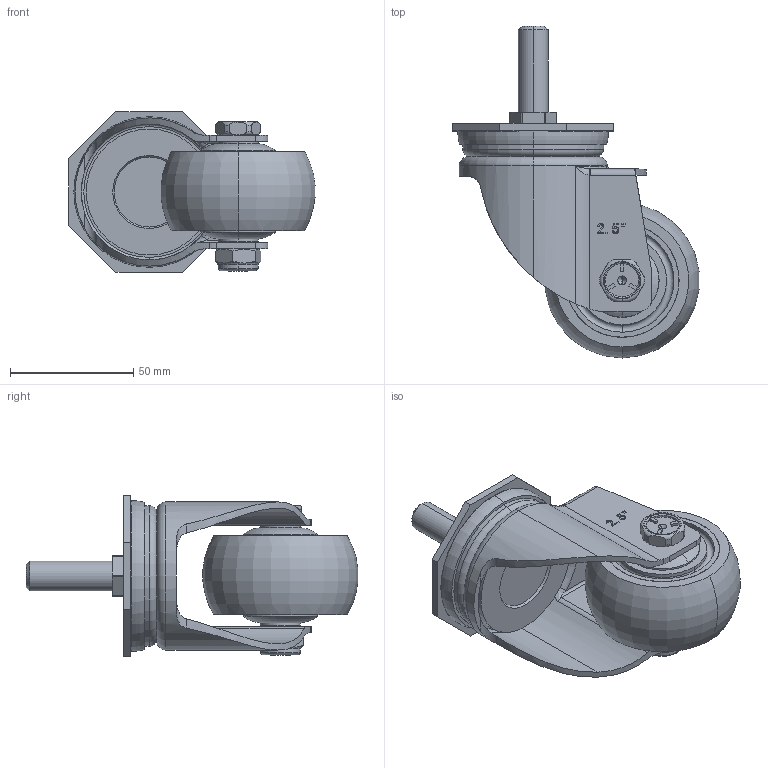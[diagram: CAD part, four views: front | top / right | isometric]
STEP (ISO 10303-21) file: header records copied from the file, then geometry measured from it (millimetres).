
FILE_DESCRIPTION (( 'STEP AP203' ), '1' );
FILE_NAME ('2.5寸丝扣万向.STEP', '2024-03-19T03:33:16', ( '微软用户' ), ( '微软中国' ), 'SwSTEP 2.0', 'SolidWorks 2008', '' );
FILE_SCHEMA (( 'CONFIG_CONTROL_DESIGN' ));
Length unit declared in the file: millimetre
Products named in the file (7): 2.5渡佪諶勀砃; 中型2.5寸轮_默认; 丝扣_默认; M10-55蹟裝; M10蹟譫; 40.2mm中型中管_默认; 2023-3-8  中型2.5寸万向支架_默认
Assembly tree (6 placements, depth 2):
  2.5渡佪諶勀砃
    2023-3-8  中型2.5寸万向支架_默认
    M10-55蹟裝
    40.2mm中型中管_默认
    丝扣_默认
    M10蹟譫
    中型2.5寸轮_默认
Bounding box: 99.68 x 134.42 x 65.01 mm (x, y, z)
Volume: 174751.5 mm3; surface area: 59290.1 mm2
Topology: 6 solids, 6 shells, 499 faces, 1268 edges, 823 vertices
Faces by surface type: plane 203, cylinder 131, bspline 99, torus 46, cone 20
Entity records: 21861 total; most frequent: CARTESIAN_POINT 9780, ORIENTED_EDGE 2528, DIRECTION 2076, EDGE_CURVE 1264, VERTEX_POINT 823, AXIS2_PLACEMENT_3D 724, VECTOR 628, LINE 628
